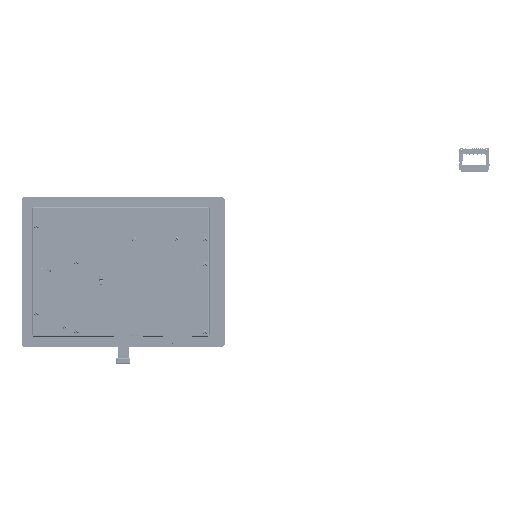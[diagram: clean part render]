
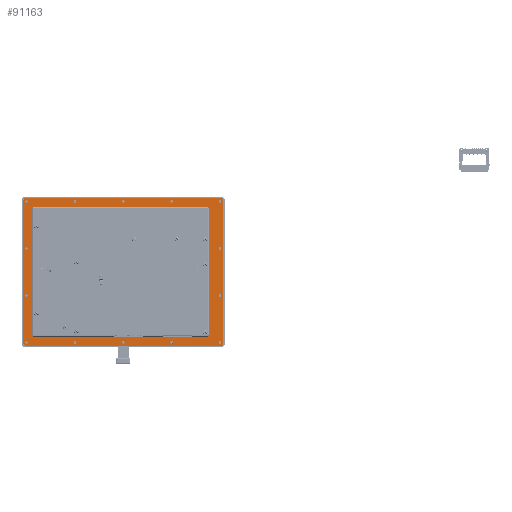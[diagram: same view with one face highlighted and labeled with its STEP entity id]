
A CAD part, top view. The second image highlights one B-rep face of the part: STEP entity #91163.
In plain terms, the highlighted planar face has unit normal (0, 0, 1).
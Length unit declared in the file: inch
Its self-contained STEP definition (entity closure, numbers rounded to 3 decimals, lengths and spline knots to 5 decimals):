
#91163 = ADVANCED_FACE( '', ( #182533, #182534 ), #182535, .T. );
#182533 = FACE_BOUND( '', #219566, .T. );
#182534 = FACE_OUTER_BOUND( '', #219567, .T. );
#182535 = PLANE( '', #219568 );
#219566 = EDGE_LOOP( '', ( #279775, #279776, #279777, #279778, #279779, #279780, #279781, #279782 ) );
#219567 = EDGE_LOOP( '', ( #279783, #279784, #279785, #279786, #279787, #279788, #279789, #279790 ) );
#219568 = AXIS2_PLACEMENT_3D( '', #279791, #279792, #279793 );
#279775 = ORIENTED_EDGE( '', *, *, #361131, .F. );
#279776 = ORIENTED_EDGE( '', *, *, #361154, .T. );
#279777 = ORIENTED_EDGE( '', *, *, #361155, .F. );
#279778 = ORIENTED_EDGE( '', *, *, #361156, .T. );
#279779 = ORIENTED_EDGE( '', *, *, #361157, .F. );
#279780 = ORIENTED_EDGE( '', *, *, #361158, .T. );
#279781 = ORIENTED_EDGE( '', *, *, #361152, .F. );
#279782 = ORIENTED_EDGE( '', *, *, #361150, .T. );
#279783 = ORIENTED_EDGE( '', *, *, #361110, .T. );
#279784 = ORIENTED_EDGE( '', *, *, #361159, .T. );
#279785 = ORIENTED_EDGE( '', *, *, #361160, .T. );
#279786 = ORIENTED_EDGE( '', *, *, #361161, .T. );
#279787 = ORIENTED_EDGE( '', *, *, #361162, .T. );
#279788 = ORIENTED_EDGE( '', *, *, #361129, .T. );
#279789 = ORIENTED_EDGE( '', *, *, #361111, .T. );
#279790 = ORIENTED_EDGE( '', *, *, #361163, .T. );
#279791 = CARTESIAN_POINT( '', ( -6.326, -4.6635, 0.01 ) );
#279792 = DIRECTION( '', ( 0., 0., 1. ) );
#279793 = DIRECTION( '', ( 1., 0., 0. ) );
#361110 = EDGE_CURVE( '', #398058, #398063, #398065, .T. );
#361111 = EDGE_CURVE( '', #398066, #398067, #398068, .T. );
#361129 = EDGE_CURVE( '', #398100, #398066, #398101, .T. );
#361131 = EDGE_CURVE( '', #398103, #398104, #398105, .T. );
#361150 = EDGE_CURVE( '', #398140, #398104, #398141, .F. );
#361152 = EDGE_CURVE( '', #398140, #398143, #398144, .T. );
#361154 = EDGE_CURVE( '', #398103, #398146, #398147, .F. );
#361155 = EDGE_CURVE( '', #398148, #398146, #398149, .T. );
#361156 = EDGE_CURVE( '', #398148, #398150, #398151, .F. );
#361157 = EDGE_CURVE( '', #398152, #398150, #398153, .T. );
#361158 = EDGE_CURVE( '', #398152, #398143, #398154, .F. );
#361159 = EDGE_CURVE( '', #398063, #398155, #398156, .T. );
#361160 = EDGE_CURVE( '', #398155, #398157, #398158, .T. );
#361161 = EDGE_CURVE( '', #398157, #398159, #398160, .T. );
#361162 = EDGE_CURVE( '', #398159, #398100, #398161, .T. );
#361163 = EDGE_CURVE( '', #398067, #398058, #398162, .T. );
#398058 = VERTEX_POINT( '', #405426 );
#398063 = VERTEX_POINT( '', #405433 );
#398065 = LINE( '', #405436, #405437 );
#398066 = VERTEX_POINT( '', #405438 );
#398067 = VERTEX_POINT( '', #405439 );
#398068 = LINE( '', #405440, #405441 );
#398100 = VERTEX_POINT( '', #405486 );
#398101 = CIRCLE( '', #405487, 0.135 );
#398103 = VERTEX_POINT( '', #405490 );
#398104 = VERTEX_POINT( '', #405491 );
#398105 = LINE( '', #405492, #405493 );
#398140 = VERTEX_POINT( '', #405542 );
#398141 = CIRCLE( '', #405543, 0.125 );
#398143 = VERTEX_POINT( '', #405546 );
#398144 = LINE( '', #405547, #405548 );
#398146 = VERTEX_POINT( '', #405551 );
#398147 = CIRCLE( '', #405552, 0.125 );
#398148 = VERTEX_POINT( '', #405553 );
#398149 = LINE( '', #405554, #405555 );
#398150 = VERTEX_POINT( '', #405556 );
#398151 = CIRCLE( '', #405557, 0.125 );
#398152 = VERTEX_POINT( '', #405558 );
#398153 = LINE( '', #405559, #405560 );
#398154 = CIRCLE( '', #405561, 0.125 );
#398155 = VERTEX_POINT( '', #405562 );
#398156 = CIRCLE( '', #405563, 0.135 );
#398157 = VERTEX_POINT( '', #405564 );
#398158 = LINE( '', #405565, #405566 );
#398159 = VERTEX_POINT( '', #405567 );
#398160 = CIRCLE( '', #405568, 0.135 );
#398161 = LINE( '', #405569, #405570 );
#398162 = CIRCLE( '', #405571, 0.135 );
#405426 = CARTESIAN_POINT( '', ( -6.326, 4.5285, 0.01 ) );
#405433 = CARTESIAN_POINT( '', ( -6.326, -4.5285, 0.01 ) );
#405436 = CARTESIAN_POINT( '', ( -6.326, 4.6635, 0.01 ) );
#405437 = VECTOR( '', #408738, 39.37008 );
#405438 = CARTESIAN_POINT( '', ( 6.191, 4.6635, 0.01 ) );
#405439 = CARTESIAN_POINT( '', ( -6.191, 4.6635, 0.01 ) );
#405440 = CARTESIAN_POINT( '', ( 6.326, 4.6635, 0.01 ) );
#405441 = VECTOR( '', #408739, 39.37008 );
#405486 = CARTESIAN_POINT( '', ( 6.326, 4.5285, 0.01 ) );
#405487 = AXIS2_PLACEMENT_3D( '', #408765, #408766, #408767 );
#405490 = CARTESIAN_POINT( '', ( -3.6968, 3.07055, 0.01 ) );
#405491 = CARTESIAN_POINT( '', ( -3.6968, -2.98255, 0.01 ) );
#405492 = CARTESIAN_POINT( '', ( -3.6968, 3.19555, 0.01 ) );
#405493 = VECTOR( '', #408769, 39.37008 );
#405542 = CARTESIAN_POINT( '', ( -3.5718, -3.10755, 0.01 ) );
#405543 = AXIS2_PLACEMENT_3D( '', #408796, #408797, #408798 );
#405546 = CARTESIAN_POINT( '', ( 4.5758, -3.10755, 0.01 ) );
#405547 = CARTESIAN_POINT( '', ( -3.6968, -3.10755, 0.01 ) );
#405548 = VECTOR( '', #408800, 39.37008 );
#405551 = CARTESIAN_POINT( '', ( -3.5718, 3.19555, 0.01 ) );
#405552 = AXIS2_PLACEMENT_3D( '', #408802, #408803, #408804 );
#405553 = CARTESIAN_POINT( '', ( 4.5758, 3.19555, 0.01 ) );
#405554 = CARTESIAN_POINT( '', ( 4.7008, 3.19555, 0.01 ) );
#405555 = VECTOR( '', #408805, 39.37008 );
#405556 = CARTESIAN_POINT( '', ( 4.7008, 3.07055, 0.01 ) );
#405557 = AXIS2_PLACEMENT_3D( '', #408806, #408807, #408808 );
#405558 = CARTESIAN_POINT( '', ( 4.7008, -2.98255, 0.01 ) );
#405559 = CARTESIAN_POINT( '', ( 4.7008, -3.10755, 0.01 ) );
#405560 = VECTOR( '', #408809, 39.37008 );
#405561 = AXIS2_PLACEMENT_3D( '', #408810, #408811, #408812 );
#405562 = CARTESIAN_POINT( '', ( -6.191, -4.6635, 0.01 ) );
#405563 = AXIS2_PLACEMENT_3D( '', #408813, #408814, #408815 );
#405564 = CARTESIAN_POINT( '', ( 6.191, -4.6635, 0.01 ) );
#405565 = CARTESIAN_POINT( '', ( -6.326, -4.6635, 0.01 ) );
#405566 = VECTOR( '', #408816, 39.37008 );
#405567 = CARTESIAN_POINT( '', ( 6.326, -4.5285, 0.01 ) );
#405568 = AXIS2_PLACEMENT_3D( '', #408817, #408818, #408819 );
#405569 = CARTESIAN_POINT( '', ( 6.326, -4.6635, 0.01 ) );
#405570 = VECTOR( '', #408820, 39.37008 );
#405571 = AXIS2_PLACEMENT_3D( '', #408821, #408822, #408823 );
#408738 = DIRECTION( '', ( 0., -1., 0. ) );
#408739 = DIRECTION( '', ( -1., 0., 0. ) );
#408765 = CARTESIAN_POINT( '', ( 6.191, 4.5285, 0.01 ) );
#408766 = DIRECTION( '', ( 0., 0., 1. ) );
#408767 = DIRECTION( '', ( 1., 0., 0. ) );
#408769 = DIRECTION( '', ( 0., -1., 0. ) );
#408796 = CARTESIAN_POINT( '', ( -3.5718, -2.98255, 0.01 ) );
#408797 = DIRECTION( '', ( 0., 0., 1. ) );
#408798 = DIRECTION( '', ( 1., 0., 0. ) );
#408800 = DIRECTION( '', ( 1., 0., 0. ) );
#408802 = CARTESIAN_POINT( '', ( -3.5718, 3.07055, 0.01 ) );
#408803 = DIRECTION( '', ( 0., 0., 1. ) );
#408804 = DIRECTION( '', ( 1., 0., 0. ) );
#408805 = DIRECTION( '', ( -1., 0., 0. ) );
#408806 = CARTESIAN_POINT( '', ( 4.5758, 3.07055, 0.01 ) );
#408807 = DIRECTION( '', ( 0., 0., 1. ) );
#408808 = DIRECTION( '', ( 1., 0., 0. ) );
#408809 = DIRECTION( '', ( 0., 1., 0. ) );
#408810 = CARTESIAN_POINT( '', ( 4.5758, -2.98255, 0.01 ) );
#408811 = DIRECTION( '', ( 0., 0., 1. ) );
#408812 = DIRECTION( '', ( 1., 0., 0. ) );
#408813 = CARTESIAN_POINT( '', ( -6.191, -4.5285, 0.01 ) );
#408814 = DIRECTION( '', ( 0., 0., 1. ) );
#408815 = DIRECTION( '', ( 1., 0., 0. ) );
#408816 = DIRECTION( '', ( 1., 0., 0. ) );
#408817 = CARTESIAN_POINT( '', ( 6.191, -4.5285, 0.01 ) );
#408818 = DIRECTION( '', ( 0., 0., 1. ) );
#408819 = DIRECTION( '', ( 1., 0., 0. ) );
#408820 = DIRECTION( '', ( 0., 1., 0. ) );
#408821 = CARTESIAN_POINT( '', ( -6.191, 4.5285, 0.01 ) );
#408822 = DIRECTION( '', ( 0., 0., 1. ) );
#408823 = DIRECTION( '', ( 1., 0., 0. ) );
